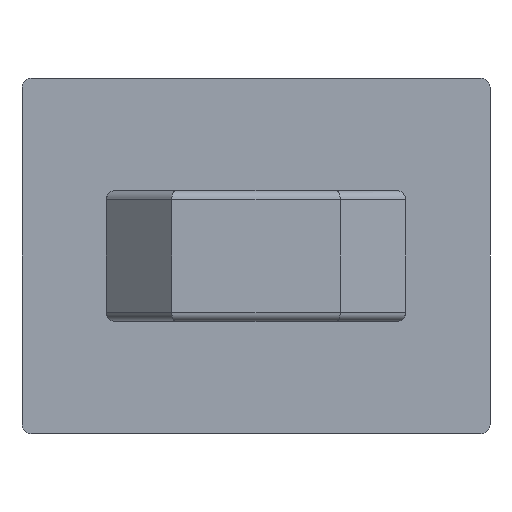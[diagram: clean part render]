
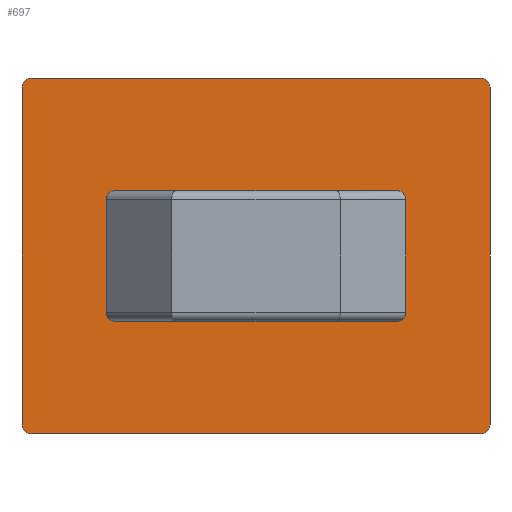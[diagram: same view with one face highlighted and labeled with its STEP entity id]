
A CAD part, left-side view. The second image highlights one B-rep face of the part: STEP entity #697.
In plain terms, the highlighted planar face has unit normal (-1, 0, 0).
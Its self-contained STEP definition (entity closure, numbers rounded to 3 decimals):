
#99=CARTESIAN_POINT('',(0.,8.4,-9.));
#100=VERTEX_POINT('',#99);
#107=CARTESIAN_POINT('',(0.0,11.4,-6.));
#108=VERTEX_POINT('',#107);
#109=CARTESIAN_POINT('',(0.,11.4,-9.0));
#110=DIRECTION('',(1.0,0.,0.));
#111=DIRECTION('',(0.,-0.707,0.707));
#112=AXIS2_PLACEMENT_3D('',#109,#110,#111);
#113=CIRCLE('',#112,3.);
#114=EDGE_CURVE('',#100,#108,#113,.F.);
#139=CARTESIAN_POINT('',(0.,8.4,-13.));
#140=VERTEX_POINT('',#139);
#147=CARTESIAN_POINT('',(0.,8.4,-9.));
#148=DIRECTION('',(0.0,0.0,-1.0));
#149=VECTOR('',#148,4.);
#150=LINE('',#147,#149);
#151=EDGE_CURVE('',#100,#140,#150,.T.);
#172=CARTESIAN_POINT('',(0.0,16.6,-10.));
#173=VERTEX_POINT('',#172);
#180=CARTESIAN_POINT('',(0.0,13.6,-13.));
#181=VERTEX_POINT('',#180);
#182=CARTESIAN_POINT('',(0.0,13.6,-10.));
#183=DIRECTION('',(1.,0.0,0.0));
#184=DIRECTION('',(0.0,0.707,-0.707));
#185=AXIS2_PLACEMENT_3D('',#182,#183,#184);
#186=CIRCLE('',#185,3.0);
#187=EDGE_CURVE('',#173,#181,#186,.F.);
#212=CARTESIAN_POINT('',(0.0,16.6,-6.));
#213=VERTEX_POINT('',#212);
#220=CARTESIAN_POINT('',(0.0,16.6,-6.));
#221=DIRECTION('',(0.0,0.0,-1.0));
#222=VECTOR('',#221,4.);
#223=LINE('',#220,#222);
#224=EDGE_CURVE('',#213,#173,#223,.T.);
#365=CARTESIAN_POINT('',(0.0,0.0,-18.5));
#366=VERTEX_POINT('',#365);
#367=CARTESIAN_POINT('',(0.0,0.5,-19.0));
#368=VERTEX_POINT('',#367);
#369=CARTESIAN_POINT('',(0.0,0.5,-18.5));
#370=DIRECTION('',(1.0,0.0,0.0));
#371=DIRECTION('',(0.0,-0.707,-0.707));
#372=AXIS2_PLACEMENT_3D('',#369,#370,#371);
#373=CIRCLE('',#372,0.5);
#374=EDGE_CURVE('',#366,#368,#373,.T.);
#603=CARTESIAN_POINT('',(0.0,24.5,-19.0));
#604=VERTEX_POINT('',#603);
#605=CARTESIAN_POINT('',(0.0,24.5,-19.0));
#606=DIRECTION('',(0.0,-1.0,0.0));
#607=VECTOR('',#606,24.0);
#608=LINE('',#605,#607);
#609=EDGE_CURVE('',#604,#368,#608,.T.);
#621=CARTESIAN_POINT('',(0.0,25.0,0.0));
#622=DIRECTION('',(-1.0,0.0,0.0));
#623=DIRECTION('',(0.0,0.0,1.0));
#624=AXIS2_PLACEMENT_3D('',#621,#622,#623);
#625=PLANE('',#624);
#626=ORIENTED_EDGE('',*,*,#374,.F.);
#627=CARTESIAN_POINT('',(0.0,0.0,-0.5));
#628=VERTEX_POINT('',#627);
#629=CARTESIAN_POINT('',(0.0,0.0,-0.5));
#630=DIRECTION('',(0.0,0.0,-1.0));
#631=VECTOR('',#630,18.0);
#632=LINE('',#629,#631);
#633=EDGE_CURVE('',#628,#366,#632,.T.);
#634=ORIENTED_EDGE('',*,*,#633,.F.);
#635=CARTESIAN_POINT('',(0.0,0.5,0.0));
#636=VERTEX_POINT('',#635);
#637=CARTESIAN_POINT('',(0.0,0.5,-0.5));
#638=DIRECTION('',(1.,0.0,0.0));
#639=DIRECTION('',(0.0,-0.707,0.707));
#640=AXIS2_PLACEMENT_3D('',#637,#638,#639);
#641=CIRCLE('',#640,0.5);
#642=EDGE_CURVE('',#636,#628,#641,.T.);
#643=ORIENTED_EDGE('',*,*,#642,.F.);
#644=CARTESIAN_POINT('',(0.0,24.5,0.0));
#645=VERTEX_POINT('',#644);
#646=CARTESIAN_POINT('',(0.0,24.5,0.0));
#647=DIRECTION('',(0.0,-1.0,0.0));
#648=VECTOR('',#647,24.0);
#649=LINE('',#646,#648);
#650=EDGE_CURVE('',#645,#636,#649,.T.);
#651=ORIENTED_EDGE('',*,*,#650,.F.);
#652=CARTESIAN_POINT('',(0.0,25.0,-0.5));
#653=VERTEX_POINT('',#652);
#654=CARTESIAN_POINT('',(0.0,24.5,-0.5));
#655=DIRECTION('',(1.0,0.0,0.0));
#656=DIRECTION('',(0.0,0.707,0.707));
#657=AXIS2_PLACEMENT_3D('',#654,#655,#656);
#658=CIRCLE('',#657,0.5);
#659=EDGE_CURVE('',#653,#645,#658,.T.);
#660=ORIENTED_EDGE('',*,*,#659,.F.);
#661=CARTESIAN_POINT('',(0.0,25.0,-18.5));
#662=VERTEX_POINT('',#661);
#663=CARTESIAN_POINT('',(0.0,25.0,-0.5));
#664=DIRECTION('',(0.0,0.0,-1.0));
#665=VECTOR('',#664,18.0);
#666=LINE('',#663,#665);
#667=EDGE_CURVE('',#653,#662,#666,.T.);
#668=ORIENTED_EDGE('',*,*,#667,.T.);
#669=CARTESIAN_POINT('',(0.0,24.5,-18.5));
#670=DIRECTION('',(1.,0.0,0.0));
#671=DIRECTION('',(0.0,0.707,-0.707));
#672=AXIS2_PLACEMENT_3D('',#669,#670,#671);
#673=CIRCLE('',#672,0.5);
#674=EDGE_CURVE('',#604,#662,#673,.T.);
#675=ORIENTED_EDGE('',*,*,#674,.F.);
#676=ORIENTED_EDGE('',*,*,#609,.T.);
#677=EDGE_LOOP('',(#626,#634,#643,#651,#660,#668,#675,#676));
#678=FACE_OUTER_BOUND('',#677,.T.);
#679=CARTESIAN_POINT('',(0.,8.4,-13.));
#680=DIRECTION('',(0.0,1.0,0.0));
#681=VECTOR('',#680,5.2);
#682=LINE('',#679,#681);
#683=EDGE_CURVE('',#140,#181,#682,.T.);
#684=ORIENTED_EDGE('',*,*,#683,.T.);
#685=ORIENTED_EDGE('',*,*,#187,.F.);
#686=ORIENTED_EDGE('',*,*,#224,.F.);
#687=CARTESIAN_POINT('',(0.0,16.6,-6.));
#688=DIRECTION('',(0.0,-1.0,0.0));
#689=VECTOR('',#688,5.2);
#690=LINE('',#687,#689);
#691=EDGE_CURVE('',#213,#108,#690,.T.);
#692=ORIENTED_EDGE('',*,*,#691,.T.);
#693=ORIENTED_EDGE('',*,*,#114,.F.);
#694=ORIENTED_EDGE('',*,*,#151,.T.);
#695=EDGE_LOOP('',(#684,#685,#686,#692,#693,#694));
#696=FACE_BOUND('',#695,.T.);
#697=ADVANCED_FACE('',(#678,#696),#625,.T.);
